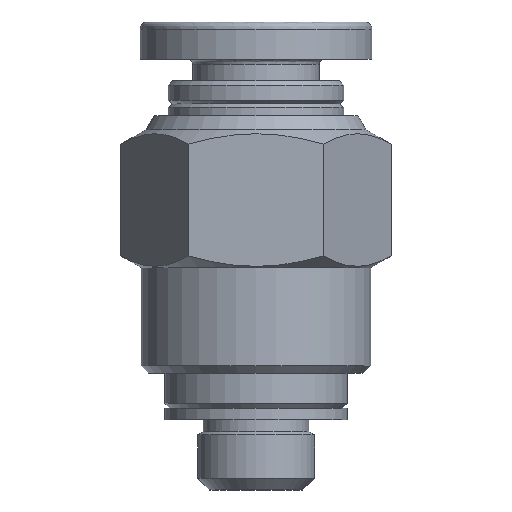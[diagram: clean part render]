
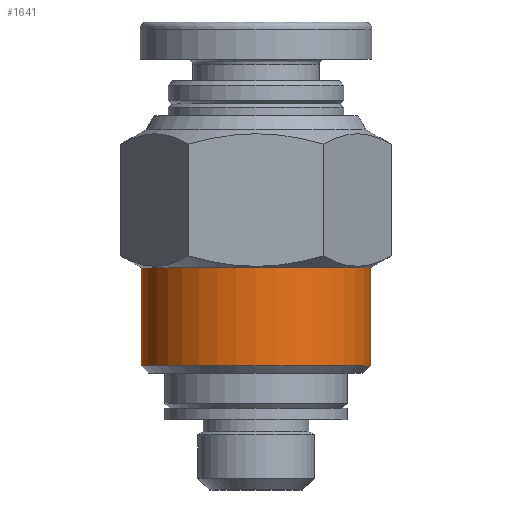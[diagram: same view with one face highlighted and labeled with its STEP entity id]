
A CAD part, front view. The second image highlights one B-rep face of the part: STEP entity #1641.
In plain terms, the highlighted cylindrical face has radius 4.9 mm (diameter 9.8 mm), a partial arc.
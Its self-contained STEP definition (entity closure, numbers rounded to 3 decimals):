
#18 = EDGE_CURVE ( 'NONE', #1285, #402, #304, .T. ) ;
#20 = AXIS2_PLACEMENT_3D ( 'NONE', #468, #336, #358 ) ;
#123 = VECTOR ( 'NONE', #1192, 1000. ) ;
#141 = LINE ( 'NONE', #1163, #123 ) ;
#186 = CIRCLE ( 'NONE', #20, 4.9 ) ;
#217 = EDGE_CURVE ( 'NONE', #420, #1318, #141, .T. ) ;
#288 = VECTOR ( 'NONE', #1703, 1000. ) ;
#304 = LINE ( 'NONE', #1734, #288 ) ;
#336 = DIRECTION ( 'NONE',  ( 0., 0., 1. ) ) ;
#358 = DIRECTION ( 'NONE',  ( -0.995, 0.096, 0. ) ) ;
#402 = VERTEX_POINT ( 'NONE', #824 ) ;
#420 = VERTEX_POINT ( 'NONE', #899 ) ;
#452 = EDGE_CURVE ( 'NONE', #1285, #420, #1455, .T. ) ;
#455 = EDGE_CURVE ( 'NONE', #402, #1318, #186, .T. ) ;
#468 = CARTESIAN_POINT ( 'NONE',  ( 0., 0., 9.5 ) ) ;
#520 = DIRECTION ( 'NONE',  ( 1., 0., 0. ) ) ;
#573 = EDGE_LOOP ( 'NONE', ( #1444, #1440, #1450, #1698 ) ) ;
#721 = DIRECTION ( 'NONE',  ( 0., 0., 1. ) ) ;
#724 = CARTESIAN_POINT ( 'NONE',  ( 0., 0., 5.3 ) ) ;
#824 = CARTESIAN_POINT ( 'NONE',  ( -4.9, 0., 9.5 ) ) ;
#899 = CARTESIAN_POINT ( 'NONE',  ( 4.9, 0., 5.3 ) ) ;
#1142 = CARTESIAN_POINT ( 'NONE',  ( 4.9, 0., 9.5 ) ) ;
#1163 = CARTESIAN_POINT ( 'NONE',  ( 4.9, 0., 5.3 ) ) ;
#1192 = DIRECTION ( 'NONE',  ( 0., 0., 1. ) ) ;
#1279 = CARTESIAN_POINT ( 'NONE',  ( -4.9, 0., 5.3 ) ) ;
#1285 = VERTEX_POINT ( 'NONE', #1279 ) ;
#1318 = VERTEX_POINT ( 'NONE', #1142 ) ;
#1345 = AXIS2_PLACEMENT_3D ( 'NONE', #1882, #1873, #1885 ) ;
#1440 = ORIENTED_EDGE ( 'NONE', *, *, #452, .T. ) ;
#1444 = ORIENTED_EDGE ( 'NONE', *, *, #18, .F. ) ;
#1450 = ORIENTED_EDGE ( 'NONE', *, *, #217, .T. ) ;
#1455 = CIRCLE ( 'NONE', #1540, 4.9 ) ;
#1540 = AXIS2_PLACEMENT_3D ( 'NONE', #724, #721, #520 ) ;
#1641 = ADVANCED_FACE ( '16', ( #1769 ), #1846, .T. ) ;
#1698 = ORIENTED_EDGE ( 'NONE', *, *, #455, .F. ) ;
#1703 = DIRECTION ( 'NONE',  ( 0., 0., 1. ) ) ;
#1734 = CARTESIAN_POINT ( 'NONE',  ( -4.9, 0., 5.3 ) ) ;
#1769 = FACE_OUTER_BOUND ( 'NONE', #573, .T. ) ;
#1846 = CYLINDRICAL_SURFACE ( 'NONE', #1345, 4.9 ) ;
#1873 = DIRECTION ( 'NONE',  ( 0., 0., 1. ) ) ;
#1882 = CARTESIAN_POINT ( 'NONE',  ( 0., 0., 5.3 ) ) ;
#1885 = DIRECTION ( 'NONE',  ( 1., 0., 0. ) ) ;
